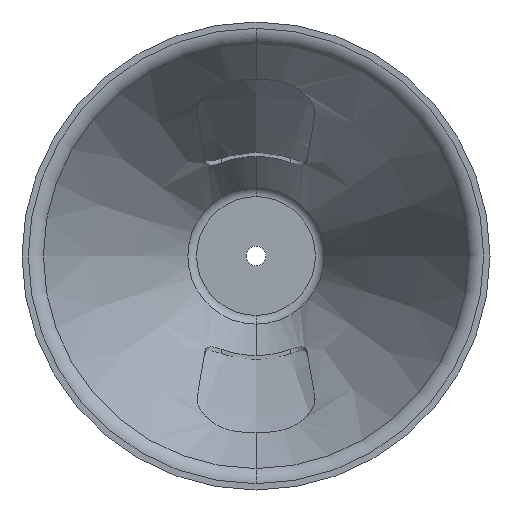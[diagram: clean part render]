
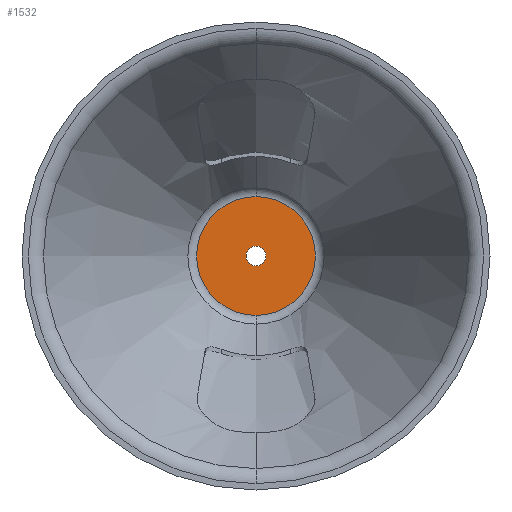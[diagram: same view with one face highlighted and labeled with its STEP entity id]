
A CAD part, front view. The second image highlights one B-rep face of the part: STEP entity #1532.
In plain terms, the highlighted planar face has unit normal (0, -1, 0).
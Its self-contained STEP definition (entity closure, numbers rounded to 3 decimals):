
#65 = EDGE_CURVE ( 'NONE', #484, #2544, #3042, .T. ) ;
#74 = EDGE_CURVE ( 'NONE', #3077, #748, #2474, .T. ) ;
#151 = AXIS2_PLACEMENT_3D ( 'NONE', #1620, #1357, #1341 ) ;
#376 = DIRECTION ( 'NONE',  ( 0., -1., 0. ) ) ;
#416 = AXIS2_PLACEMENT_3D ( 'NONE', #1890, #1927, #1984 ) ;
#484 = VERTEX_POINT ( 'NONE', #3095 ) ;
#748 = VERTEX_POINT ( 'NONE', #2600 ) ;
#812 = ORIENTED_EDGE ( 'NONE', *, *, #74, .F. ) ;
#877 = AXIS2_PLACEMENT_3D ( 'NONE', #1415, #376, #3262 ) ;
#959 = EDGE_LOOP ( 'NONE', ( #2407, #812 ) ) ;
#1304 = AXIS2_PLACEMENT_3D ( 'NONE', #2262, #2280, #2300 ) ;
#1341 = DIRECTION ( 'NONE',  ( 0., 0., -1. ) ) ;
#1357 = DIRECTION ( 'NONE',  ( 0., -1., 0. ) ) ;
#1371 = DIRECTION ( 'NONE',  ( 0., 0., -1. ) ) ;
#1382 = DIRECTION ( 'NONE',  ( 0., -1., 0. ) ) ;
#1383 = CARTESIAN_POINT ( 'NONE',  ( 0., 312., 0. ) ) ;
#1415 = CARTESIAN_POINT ( 'NONE',  ( 0., 312., 0. ) ) ;
#1527 = ORIENTED_EDGE ( 'NONE', *, *, #65, .T. ) ;
#1532 = ADVANCED_FACE ( 'NONE', ( #2390, #2392 ), #1590, .T. ) ;
#1551 = ORIENTED_EDGE ( 'NONE', *, *, #1830, .T. ) ;
#1590 = PLANE ( 'NONE',  #151 ) ;
#1620 = CARTESIAN_POINT ( 'NONE',  ( 0., 312., 0. ) ) ;
#1830 = EDGE_CURVE ( 'NONE', #2544, #484, #2234, .T. ) ;
#1890 = CARTESIAN_POINT ( 'NONE',  ( 0., 312., 0. ) ) ;
#1927 = DIRECTION ( 'NONE',  ( 0., -1., 0. ) ) ;
#1984 = DIRECTION ( 'NONE',  ( 0., 0., -1. ) ) ;
#2022 = CIRCLE ( 'NONE', #877, 11. ) ;
#2228 = EDGE_LOOP ( 'NONE', ( #1551, #1527 ) ) ;
#2234 = CIRCLE ( 'NONE', #2411, 66.012 ) ;
#2262 = CARTESIAN_POINT ( 'NONE',  ( 0., 312., 0. ) ) ;
#2275 = EDGE_CURVE ( 'NONE', #748, #3077, #2022, .T. ) ;
#2280 = DIRECTION ( 'NONE',  ( 0., -1., 0. ) ) ;
#2300 = DIRECTION ( 'NONE',  ( 0., 0., -1. ) ) ;
#2373 = CARTESIAN_POINT ( 'NONE',  ( 0., 312., -11. ) ) ;
#2390 = FACE_BOUND ( 'NONE', #959, .T. ) ;
#2392 = FACE_OUTER_BOUND ( 'NONE', #2228, .T. ) ;
#2407 = ORIENTED_EDGE ( 'NONE', *, *, #2275, .F. ) ;
#2411 = AXIS2_PLACEMENT_3D ( 'NONE', #1383, #1382, #1371 ) ;
#2474 = CIRCLE ( 'NONE', #1304, 11. ) ;
#2544 = VERTEX_POINT ( 'NONE', #3208 ) ;
#2600 = CARTESIAN_POINT ( 'NONE',  ( 0., 312., 11. ) ) ;
#3042 = CIRCLE ( 'NONE', #416, 66.012 ) ;
#3077 = VERTEX_POINT ( 'NONE', #2373 ) ;
#3095 = CARTESIAN_POINT ( 'NONE',  ( 0., 312., 66.012 ) ) ;
#3208 = CARTESIAN_POINT ( 'NONE',  ( 0., 312., -66.012 ) ) ;
#3262 = DIRECTION ( 'NONE',  ( 0., 0., -1. ) ) ;
